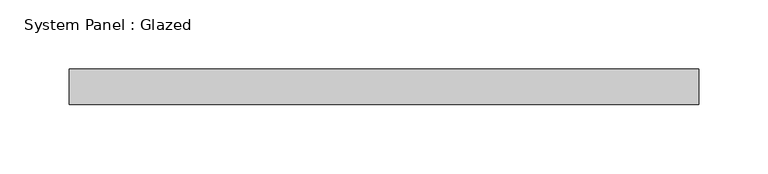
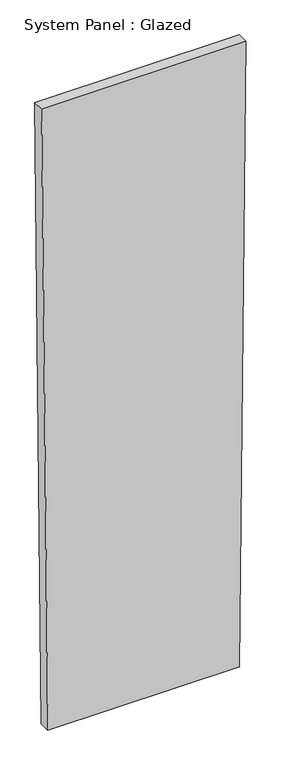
"""IFC4 building model written with IfcOpenShell, lengths in millimetres: plate geometry, System Panel : Glazed."""

from ifc_helpers import new_model, si_unit, frame, origin, place, context, project, spatial, polyline, outline, extrude, source, transform, mapped, element, save


def system_panel_glazed_cbb9f742(model_context):
    return source(origin(), model_context, "Body", "SweptSolid", [
        extrude(outline(polyline([(0.0, -212.4786304), (0.0, 212.4786304), (1460.4286562, 226.6103852), (1460.4286562, -226.6103852), (0.0, -212.4786304)])), frame((0.0, 19.05, 0.0), z_axis=(0.0, 1.0, 0.0), x_axis=(0.0, 0.0, 1.0)), (0.0, 0.0, 1.0), 25.4),
    ])


if __name__ == "__main__":
    model = new_model("IFC4")
    model_context = context("Model", 3, world=origin())
    ifc_project = project(units=[si_unit("LENGTHUNIT", "METRE", prefix="MILLI")], contexts=[model_context])
    site = spatial("IfcSite", under=ifc_project)
    building = spatial("IfcBuilding", under=site)
    placement = place(None, origin())
    system_panel_glazed_shape = system_panel_glazed_cbb9f742(model_context)
    element("IfcPlate", 1, ObjectType="System Panel : Glazed", at=placement, inside=building, context=model_context, shape_type="MappedRepresentation", body=[
        mapped(system_panel_glazed_shape, transform((0.0, 0.0, 0.0), x_axis=(1.0, 0.0, 0.0), y_axis=(0.0, 1.0, 0.0), z_axis=(0.0, 0.0, 1.0))),
    ])
    save(model, "model.ifc")
